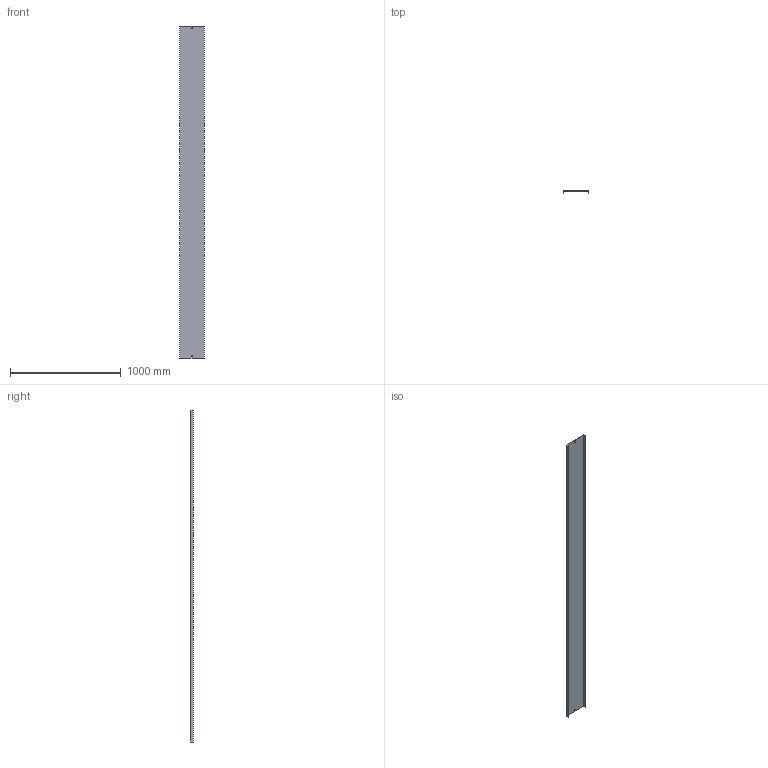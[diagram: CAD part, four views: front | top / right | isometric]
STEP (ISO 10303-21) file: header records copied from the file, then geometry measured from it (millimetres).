
FILE_DESCRIPTION (( 'STEP AP214' ), '1' );
FILE_NAME ('05G3P200.step', '2025-02-21T14:22:19', ( '' ), ( '' ), 'SwSTEP 2.0', 'SolidWorks 2023', '' );
FILE_SCHEMA (( 'AUTOMOTIVE_DESIGN' ));
Length unit declared in the file: millimetre
Products named in the file (1): 05G3P200
Bounding box: 223 x 20 x 3000 mm (x, y, z)
Volume: 1169824.5 mm3; surface area: 1569639 mm2
Topology: 1 solids, 1 shells, 18 faces, 48 edges, 32 vertices
Faces by surface type: plane 18
Entity records: 583 total; most frequent: CARTESIAN_POINT 99, ORIENTED_EDGE 96, DIRECTION 86, VECTOR 48, EDGE_CURVE 48, LINE 48, VERTEX_POINT 32, EDGE_LOOP 22
